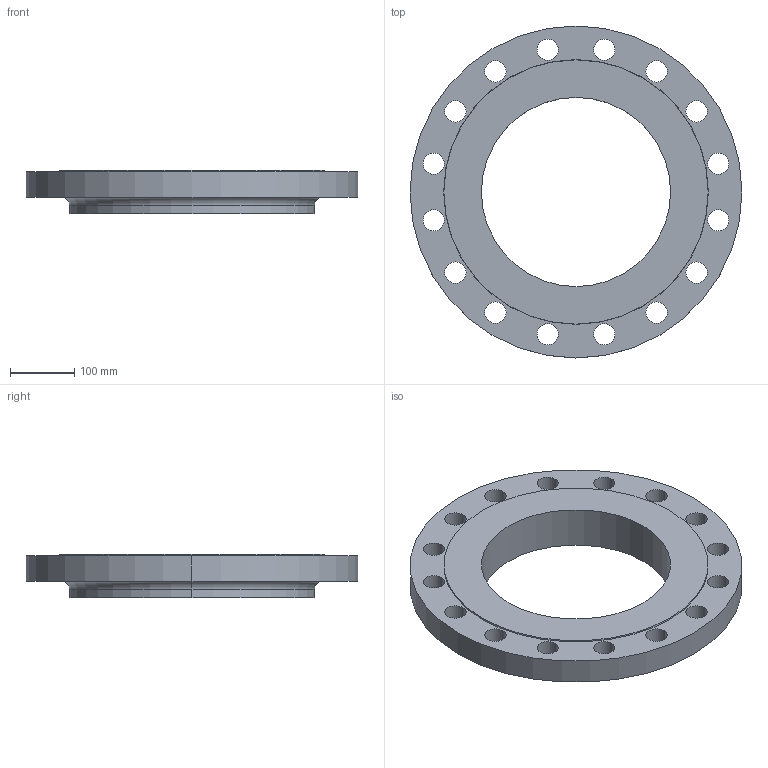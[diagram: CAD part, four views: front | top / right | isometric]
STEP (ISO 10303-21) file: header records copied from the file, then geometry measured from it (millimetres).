
FILE_DESCRIPTION (( 'STEP AP214' ), '1' );
FILE_NAME ('PN40 DN300 Type 13 - Type B Face.STEP', '2019-01-05T20:19:47', ( '' ), ( '' ), 'SwSTEP 2.0', 'SolidWorks 2019', '' );
FILE_SCHEMA (( 'AUTOMOTIVE_DESIGN' ));
Length unit declared in the file: millimetre
Products named in the file (1): PN40 DN300 Type 13 - Type B Face
Bounding box: 515 x 515 x 67 mm (x, y, z)
Volume: 6388998.9 mm3; surface area: 472698.5 mm2
Topology: 1 solids, 1 shells, 46 faces, 124 edges, 82 vertices
Faces by surface type: cylinder 38, plane 4, torus 2, cone 2
Entity records: 1598 total; most frequent: DIRECTION 302, CARTESIAN_POINT 253, ORIENTED_EDGE 248, AXIS2_PLACEMENT_3D 131, EDGE_CURVE 124, CIRCLE 84, EDGE_LOOP 82, VERTEX_POINT 82
